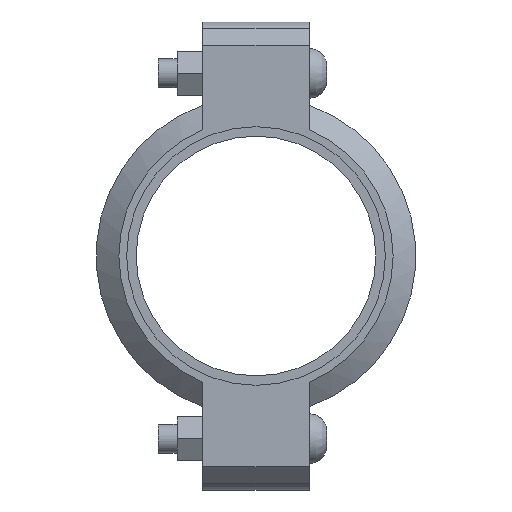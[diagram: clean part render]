
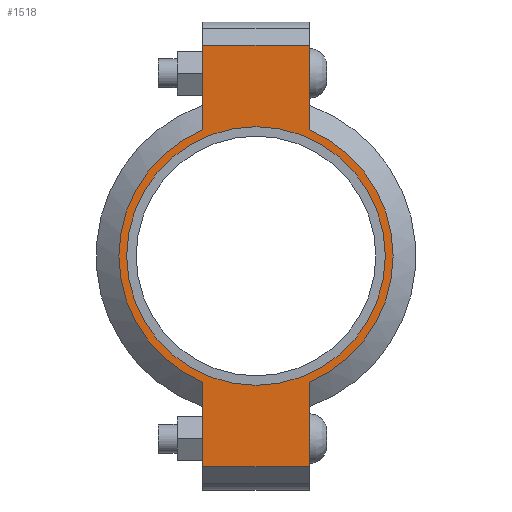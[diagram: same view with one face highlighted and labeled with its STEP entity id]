
A CAD part, left-side view. The second image highlights one B-rep face of the part: STEP entity #1518.
In plain terms, the highlighted planar face has unit normal (-1, 0, 0) as drawn and (0, 0, 1) by its records, which use the part's own axes.
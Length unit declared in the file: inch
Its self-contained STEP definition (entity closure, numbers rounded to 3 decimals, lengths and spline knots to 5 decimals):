
#142=LINE('',#2658,#235);
#150=LINE('',#2694,#243);
#157=LINE('',#2715,#250);
#166=LINE('',#2747,#259);
#167=LINE('',#2751,#260);
#168=LINE('',#2753,#261);
#235=VECTOR('',#2174,0.3937);
#243=VECTOR('',#2190,0.3937);
#250=VECTOR('',#2209,0.3937);
#259=VECTOR('',#2234,0.3937);
#260=VECTOR('',#2239,0.3937);
#261=VECTOR('',#2240,0.3937);
#317=FACE_BOUND('',#495,.T.);
#389=FACE_OUTER_BOUND('',#494,.T.);
#494=EDGE_LOOP('',(#1259,#1260,#1261,#1262,#1263,#1264,#1265,#1266));
#495=EDGE_LOOP('',(#1267));
#567=CIRCLE('',#1746,2.7815);
#593=CIRCLE('',#1805,2.95);
#594=CIRCLE('',#1806,2.95);
#659=VERTEX_POINT('',#2474);
#702=VERTEX_POINT('',#2655);
#703=VERTEX_POINT('',#2657);
#714=VERTEX_POINT('',#2689);
#715=VERTEX_POINT('',#2693);
#722=VERTEX_POINT('',#2712);
#723=VERTEX_POINT('',#2714);
#733=VERTEX_POINT('',#2750);
#734=VERTEX_POINT('',#2752);
#815=EDGE_CURVE('',#659,#659,#567,.T.);
#876=EDGE_CURVE('',#703,#702,#142,.T.);
#890=EDGE_CURVE('',#715,#714,#150,.T.);
#900=EDGE_CURVE('',#723,#722,#157,.T.);
#915=EDGE_CURVE('',#715,#702,#166,.T.);
#916=EDGE_CURVE('',#714,#723,#593,.T.);
#917=EDGE_CURVE('',#733,#722,#167,.T.);
#918=EDGE_CURVE('',#733,#734,#168,.T.);
#919=EDGE_CURVE('',#734,#703,#594,.T.);
#1259=ORIENTED_EDGE('',*,*,#915,.F.);
#1260=ORIENTED_EDGE('',*,*,#890,.T.);
#1261=ORIENTED_EDGE('',*,*,#916,.T.);
#1262=ORIENTED_EDGE('',*,*,#900,.T.);
#1263=ORIENTED_EDGE('',*,*,#917,.F.);
#1264=ORIENTED_EDGE('',*,*,#918,.T.);
#1265=ORIENTED_EDGE('',*,*,#919,.T.);
#1266=ORIENTED_EDGE('',*,*,#876,.T.);
#1267=ORIENTED_EDGE('',*,*,#815,.T.);
#1360=PLANE('',#1804);
#1518=ADVANCED_FACE('',(#389,#317),#1360,.T.);
#1746=AXIS2_PLACEMENT_3D('',#2476,#2050,#2051);
#1804=AXIS2_PLACEMENT_3D('',#2748,#2235,#2236);
#1805=AXIS2_PLACEMENT_3D('',#2749,#2237,#2238);
#1806=AXIS2_PLACEMENT_3D('',#2754,#2241,#2242);
#2050=DIRECTION('center_axis',(0.,0.,-1.));
#2051=DIRECTION('ref_axis',(1.,0.,0.));
#2174=DIRECTION('',(1.,0.,0.));
#2190=DIRECTION('',(-1.,0.,0.));
#2209=DIRECTION('',(-1.,0.,0.));
#2234=DIRECTION('',(0.,-1.,0.));
#2235=DIRECTION('center_axis',(0.,0.,1.));
#2236=DIRECTION('ref_axis',(-1.,0.,0.));
#2237=DIRECTION('center_axis',(0.,0.,1.));
#2238=DIRECTION('ref_axis',(1.,0.,0.));
#2239=DIRECTION('',(0.,1.,0.));
#2240=DIRECTION('',(1.,0.,0.));
#2241=DIRECTION('center_axis',(0.,0.,1.));
#2242=DIRECTION('ref_axis',(1.,0.,0.));
#2474=CARTESIAN_POINT('',(-2.7815,0.,1.065));
#2476=CARTESIAN_POINT('Origin',(0.,0.,1.065));
#2655=CARTESIAN_POINT('',(4.535,-1.15,1.065));
#2657=CARTESIAN_POINT('',(2.71662,-1.15,1.065));
#2658=CARTESIAN_POINT('',(5.035,-1.15,1.065));
#2689=CARTESIAN_POINT('',(2.71662,1.15,1.065));
#2693=CARTESIAN_POINT('',(4.535,1.15,1.065));
#2694=CARTESIAN_POINT('',(-5.035,1.15,1.065));
#2712=CARTESIAN_POINT('',(-4.535,1.15,1.065));
#2714=CARTESIAN_POINT('',(-2.71662,1.15,1.065));
#2715=CARTESIAN_POINT('',(-5.035,1.15,1.065));
#2747=CARTESIAN_POINT('',(4.535,-0.575,1.065));
#2748=CARTESIAN_POINT('Origin',(0.,0.,
1.065));
#2749=CARTESIAN_POINT('Origin',(0.,0.,1.065));
#2750=CARTESIAN_POINT('',(-4.535,-1.15,1.065));
#2751=CARTESIAN_POINT('',(-4.535,0.575,1.065));
#2752=CARTESIAN_POINT('',(-2.71662,-1.15,1.065));
#2753=CARTESIAN_POINT('',(5.035,-1.15,1.065));
#2754=CARTESIAN_POINT('Origin',(0.,0.,1.065));
